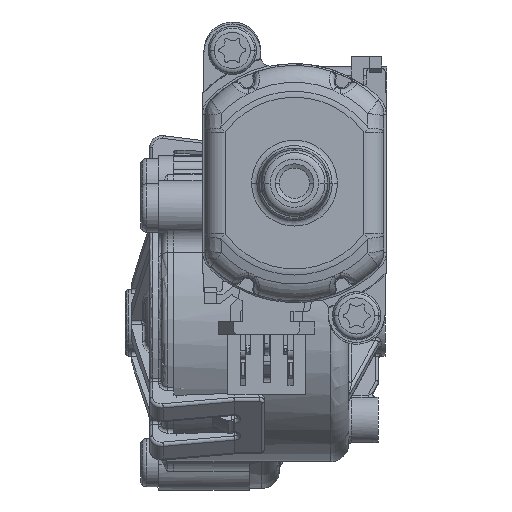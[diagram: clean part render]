
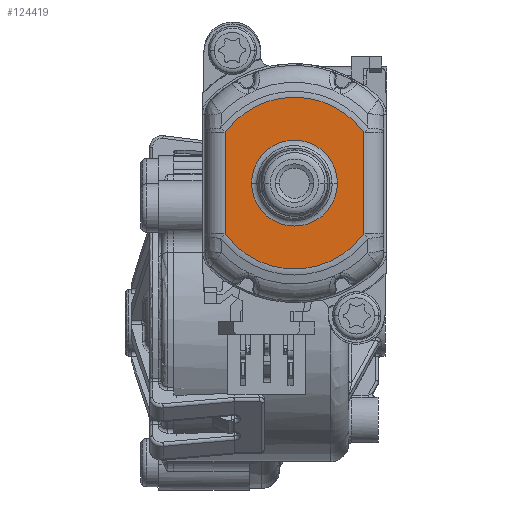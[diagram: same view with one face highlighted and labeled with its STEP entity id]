
A CAD part, front view. The second image highlights one B-rep face of the part: STEP entity #124419.
In plain terms, the highlighted planar face has unit normal (0, -1, 0).
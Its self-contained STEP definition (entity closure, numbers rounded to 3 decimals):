
#36907=CARTESIAN_POINT('',(11.5,-78.6,
-8.392));
#36917=CARTESIAN_POINT('',(0.,-78.6,0.));
#36918=DIRECTION('',(0.,1.,0.));
#36919=DIRECTION('',(0.808,0.,-0.589));
#36920=AXIS2_PLACEMENT_3D('',#36917,#36918,#36919);
#36922=DIRECTION('',(0.,0.,1.));
#36923=VECTOR('',#36922,16.785);
#36924=CARTESIAN_POINT('',(-11.5,-78.6,
-8.392));
#36925=LINE('25779',#36924,#36923);
#36926=CARTESIAN_POINT('',(0.,-78.6,0.));
#36927=DIRECTION('',(0.,1.,0.));
#36928=DIRECTION('',(-0.808,0.,0.589));
#36929=AXIS2_PLACEMENT_3D('',#36926,#36927,#36928);
#36931=CARTESIAN_POINT('',(0.,-78.6,0.));
#36932=DIRECTION('',(0.,1.,0.));
#36933=DIRECTION('',(0.,0.,1.));
#36934=AXIS2_PLACEMENT_3D('',#36931,#36932,#36933);
#36936=CARTESIAN_POINT('',(0.,-78.6,0.));
#36937=DIRECTION('',(0.,-1.,0.));
#36938=DIRECTION('',(1.,0.,0.));
#36939=AXIS2_PLACEMENT_3D('',#36936,#36937,#36938);
#36941=CARTESIAN_POINT('',(0.,-78.6,0.));
#36942=DIRECTION('',(0.,-1.,0.));
#36943=DIRECTION('',(-1.,0.,0.));
#36944=AXIS2_PLACEMENT_3D('',#36941,#36942,#36943);
#37394=DIRECTION('',(0.,0.,1.));
#37395=VECTOR('',#37394,16.785);
#37396=CARTESIAN_POINT('',(11.5,-78.6,
-8.392));
#37397=LINE('25778',#37396,#37395);
#46505=CARTESIAN_POINT('',(-11.5,-78.6,8.392));
#46507=VERTEX_POINT('',#46505);
#46512=CARTESIAN_POINT('',(-11.5,-78.6,
-8.392));
#46513=VERTEX_POINT('',#46512);
#46561=VERTEX_POINT('',#36907);
#46562=CARTESIAN_POINT('',(7.11,-78.6,0.));
#46563=CARTESIAN_POINT('',(-7.11,-78.6,0.));
#46564=VERTEX_POINT('',#46562);
#46565=VERTEX_POINT('',#46563);
#46566=CARTESIAN_POINT('',(0.,-78.6,14.237));
#46567=VERTEX_POINT('',#46566);
#46568=CARTESIAN_POINT('',(11.5,-78.6,
8.392));
#46569=VERTEX_POINT('',#46568);
#124398=CARTESIAN_POINT('',(0.,-78.6,0.));
#124399=DIRECTION('',(0.,1.,0.));
#124400=DIRECTION('',(-1.,0.,0.));
#124401=AXIS2_PLACEMENT_3D('',#124398,#124399,#124400);
#124402=PLANE('32223',#124401);
#124403=ORIENTED_EDGE('25767',*,*,#124383,.T.);
#124404=ORIENTED_EDGE('25779',*,*,#123436,.T.);
#124406=ORIENTED_EDGE('32223',*,*,#124405,.T.);
#124408=ORIENTED_EDGE('32223',*,*,#124407,.T.);
#124410=ORIENTED_EDGE('25778',*,*,#124409,.F.);
#124411=EDGE_LOOP('32223',(#124403,#124404,#124406,#124408,#124410));
#124412=FACE_OUTER_BOUND('32223',#124411,.F.);
#124414=ORIENTED_EDGE('31571',*,*,#124413,.T.);
#124416=ORIENTED_EDGE('31569',*,*,#124415,.T.);
#124417=EDGE_LOOP('32223',(#124414,#124416));
#124418=FACE_BOUND('32223',#124417,.F.);
#124419=ADVANCED_FACE('32223',(#124412,#124418),#124402,.F.);
#36921=CIRCLE('25767',#36920,14.237);
#36930=CIRCLE('30669',#36929,14.237);
#36935=CIRCLE('30670',#36934,14.237);
#36940=CIRCLE('31571',#36939,7.11);
#36945=CIRCLE('31569',#36944,7.11);
#123436=EDGE_CURVE('25779',#46513,#46507,#36925,.T.);
#124383=EDGE_CURVE('25767',#46561,#46513,#36921,.T.);
#124405=EDGE_CURVE('32223',#46507,#46567,#36930,.T.);
#124407=EDGE_CURVE('32223',#46567,#46569,#36935,.T.);
#124409=EDGE_CURVE('25778',#46561,#46569,#37397,.T.);
#124413=EDGE_CURVE('31571',#46564,#46565,#36940,.T.);
#124415=EDGE_CURVE('31569',#46565,#46564,#36945,.T.);
